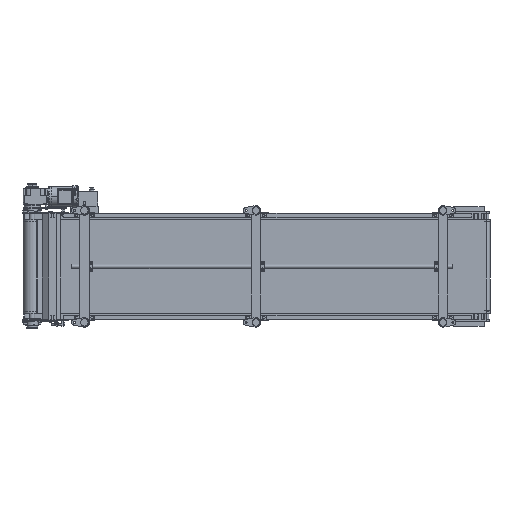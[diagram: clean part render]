
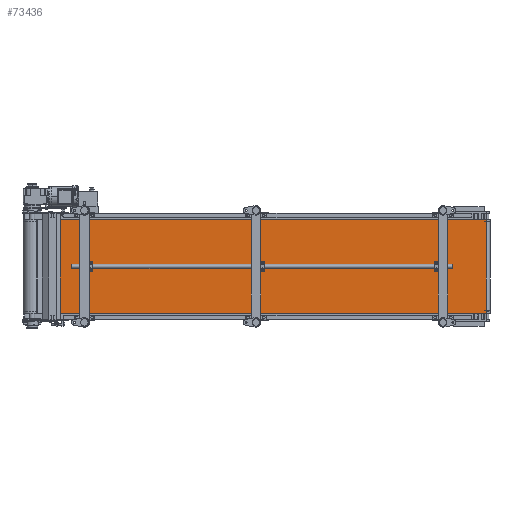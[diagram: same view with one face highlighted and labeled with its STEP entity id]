
A CAD part, front view. The second image highlights one B-rep face of the part: STEP entity #73436.
In plain terms, the highlighted planar face has unit normal (0.002, -1, 0).
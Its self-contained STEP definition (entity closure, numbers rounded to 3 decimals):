
#6587 = EDGE_CURVE ( 'NONE', #65493, #116186, #17502, .T. ) ;
#6617 = LINE ( 'NONE', #24916, #35955 ) ;
#7103 = CARTESIAN_POINT ( 'NONE',  ( 182.449, -53.7, -300. ) ) ;
#10571 = ORIENTED_EDGE ( 'NONE', *, *, #82087, .F. ) ;
#12697 = EDGE_CURVE ( 'NONE', #83557, #53034, #6617, .T. ) ;
#12749 = DIRECTION ( 'NONE',  ( -1., -0.002, 0. ) ) ;
#17502 = LINE ( 'NONE', #46451, #116191 ) ;
#19055 = FACE_OUTER_BOUND ( 'NONE', #48263, .T. ) ;
#22875 = CARTESIAN_POINT ( 'NONE',  ( 2975.753, -47.85, -300. ) ) ;
#24916 = CARTESIAN_POINT ( 'NONE',  ( 182.449, -53.7, -300. ) ) ;
#31898 = ORIENTED_EDGE ( 'NONE', *, *, #12697, .F. ) ;
#35955 = VECTOR ( 'NONE', #100589, 1000. ) ;
#39859 = CARTESIAN_POINT ( 'NONE',  ( 2975.753, -47.85, -300. ) ) ;
#40195 = LINE ( 'NONE', #77464, #72617 ) ;
#40211 = AXIS2_PLACEMENT_3D ( 'NONE', #22875, #96960, #78523 ) ;
#46451 = CARTESIAN_POINT ( 'NONE',  ( 2975.753, -47.85, -300. ) ) ;
#48263 = EDGE_LOOP ( 'NONE', ( #106567, #31898, #10571, #108050 ) ) ;
#53034 = VERTEX_POINT ( 'NONE', #67813 ) ;
#54423 = CARTESIAN_POINT ( 'NONE',  ( 2975.753, -47.85, 300. ) ) ;
#58439 = DIRECTION ( 'NONE',  ( -1., -0.002, 0. ) ) ;
#64255 = DIRECTION ( 'NONE',  ( 0., 0., 1. ) ) ;
#65493 = VERTEX_POINT ( 'NONE', #121085 ) ;
#67813 = CARTESIAN_POINT ( 'NONE',  ( 182.449, -53.7, 300. ) ) ;
#69004 = PLANE ( 'NONE',  #40211 ) ;
#70685 = LINE ( 'NONE', #39859, #72102 ) ;
#72102 = VECTOR ( 'NONE', #12749, 1000. ) ;
#72617 = VECTOR ( 'NONE', #58439, 1000. ) ;
#73436 = ADVANCED_FACE ( 'NONE', ( #19055 ), #69004, .F. ) ;
#77464 = CARTESIAN_POINT ( 'NONE',  ( 2975.753, -47.85, 300. ) ) ;
#78523 = DIRECTION ( 'NONE',  ( 1., 0.002, 0. ) ) ;
#82087 = EDGE_CURVE ( 'NONE', #65493, #83557, #70685, .T. ) ;
#83557 = VERTEX_POINT ( 'NONE', #7103 ) ;
#96960 = DIRECTION ( 'NONE',  ( -0.002, 1., 0. ) ) ;
#97250 = EDGE_CURVE ( 'NONE', #116186, #53034, #40195, .T. ) ;
#100589 = DIRECTION ( 'NONE',  ( 0., 0., 1. ) ) ;
#106567 = ORIENTED_EDGE ( 'NONE', *, *, #97250, .T. ) ;
#108050 = ORIENTED_EDGE ( 'NONE', *, *, #6587, .T. ) ;
#116186 = VERTEX_POINT ( 'NONE', #54423 ) ;
#116191 = VECTOR ( 'NONE', #64255, 1000. ) ;
#121085 = CARTESIAN_POINT ( 'NONE',  ( 2975.753, -47.85, -300. ) ) ;
